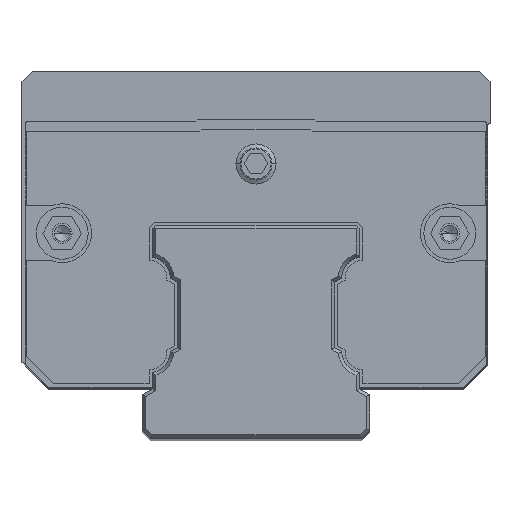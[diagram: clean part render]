
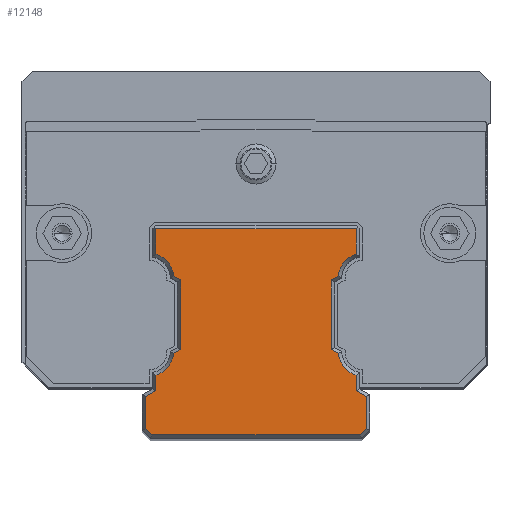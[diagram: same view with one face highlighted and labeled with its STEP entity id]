
A CAD part, top view. The second image highlights one B-rep face of the part: STEP entity #12148.
In plain terms, the highlighted planar face has unit normal (0, 0, 1).
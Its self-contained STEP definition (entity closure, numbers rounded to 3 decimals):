
#11462=DIRECTION('',(-1.,0.,0.));
#11463=VECTOR('',#11462,30.);
#11464=CARTESIAN_POINT('',(15.,12.85,104.5));
#11465=LINE('',#11464,#11463);
#11466=DIRECTION('',(0.,1.,0.));
#11467=VECTOR('',#11466,3.805);
#11468=CARTESIAN_POINT('',(15.,9.045,104.5));
#11469=LINE('',#11468,#11467);
#11470=DIRECTION('',(0.866,0.5,0.));
#11471=VECTOR('',#11470,1.239);
#11472=CARTESIAN_POINT('',(11.25,5.189,104.5));
#11473=LINE('',#11472,#11471);
#11474=DIRECTION('',(0.,1.,0.));
#11475=VECTOR('',#11474,10.377);
#11476=CARTESIAN_POINT('',(11.25,-5.189,104.5));
#11477=LINE('',#11476,#11475);
#11478=DIRECTION('',(-0.866,0.5,0.));
#11479=VECTOR('',#11478,1.239);
#11480=CARTESIAN_POINT('',(12.323,-5.808,
104.5));
#11481=LINE('',#11480,#11479);
#11482=DIRECTION('',(0.,1.,0.));
#11483=VECTOR('',#11482,2.344);
#11484=CARTESIAN_POINT('',(15.,-11.389,104.5));
#11485=LINE('',#11484,#11483);
#11486=DIRECTION('',(-0.866,0.5,0.));
#11487=VECTOR('',#11486,1.732);
#11488=CARTESIAN_POINT('',(16.5,-12.255,104.5));
#11489=LINE('',#11488,#11487);
#11490=DIRECTION('',(0.,1.,0.));
#11491=VECTOR('',#11490,4.838);
#11492=CARTESIAN_POINT('',(16.5,-17.093,104.5));
#11493=LINE('',#11492,#11491);
#11494=DIRECTION('',(0.707,0.707,0.));
#11495=VECTOR('',#11494,1.283);
#11496=CARTESIAN_POINT('',(15.593,-18.,104.5));
#11497=LINE('',#11496,#11495);
#11498=DIRECTION('',(1.,0.,0.));
#11499=VECTOR('',#11498,31.186);
#11500=CARTESIAN_POINT('',(-15.593,-18.,104.5));
#11501=LINE('',#11500,#11499);
#11502=DIRECTION('',(0.707,-0.707,0.));
#11503=VECTOR('',#11502,1.283);
#11504=CARTESIAN_POINT('',(-16.5,-17.093,104.5));
#11505=LINE('',#11504,#11503);
#11506=DIRECTION('',(0.,-1.,0.));
#11507=VECTOR('',#11506,4.838);
#11508=CARTESIAN_POINT('',(-16.5,-12.255,104.5));
#11509=LINE('',#11508,#11507);
#11510=DIRECTION('',(-0.866,-0.5,0.));
#11511=VECTOR('',#11510,1.732);
#11512=CARTESIAN_POINT('',(-15.,-11.389,104.5));
#11513=LINE('',#11512,#11511);
#11514=DIRECTION('',(0.,-1.,0.));
#11515=VECTOR('',#11514,2.344);
#11516=CARTESIAN_POINT('',(-15.,-9.045,
104.5));
#11517=LINE('',#11516,#11515);
#11518=DIRECTION('',(-0.866,-0.5,0.));
#11519=VECTOR('',#11518,1.239);
#11520=CARTESIAN_POINT('',(-11.25,-5.189,104.5));
#11521=LINE('',#11520,#11519);
#11522=DIRECTION('',(0.,-1.,0.));
#11523=VECTOR('',#11522,10.377);
#11524=CARTESIAN_POINT('',(-11.25,5.189,104.5));
#11525=LINE('',#11524,#11523);
#11526=DIRECTION('',(0.866,-0.5,0.));
#11527=VECTOR('',#11526,1.239);
#11528=CARTESIAN_POINT('',(-12.323,5.808,
104.5));
#11529=LINE('',#11528,#11527);
#11530=DIRECTION('',(0.,-1.,0.));
#11531=VECTOR('',#11530,3.805);
#11532=CARTESIAN_POINT('',(-15.,12.85,104.5));
#11533=LINE('',#11532,#11531);
#11561=CARTESIAN_POINT('',(-16.046,5.454,104.5));
#11562=DIRECTION('',(0.,0.,-1.));
#11563=DIRECTION('',(0.28,0.96,0.));
#11564=AXIS2_PLACEMENT_3D('',#11561,#11562,#11563);
#11621=CARTESIAN_POINT('',(-16.046,-5.454,104.5));
#11622=DIRECTION('',(0.,0.,-1.));
#11623=DIRECTION('',(0.996,-0.095,0.));
#11624=AXIS2_PLACEMENT_3D('',#11621,#11622,#11623);
#11753=CARTESIAN_POINT('',(16.046,-5.454,104.5));
#11754=DIRECTION('',(0.,0.,-1.));
#11755=DIRECTION('',(-0.28,-0.96,0.));
#11756=AXIS2_PLACEMENT_3D('',#11753,#11754,#11755);
#11818=CARTESIAN_POINT('',(16.046,5.454,104.5));
#11819=DIRECTION('',(0.,0.,-1.));
#11820=DIRECTION('',(-0.996,0.095,0.));
#11821=AXIS2_PLACEMENT_3D('',#11818,#11819,#11820);
#11910=CARTESIAN_POINT('',(15.,12.85,104.5));
#11911=CARTESIAN_POINT('',(-15.,12.85,104.5));
#11912=VERTEX_POINT('',#11910);
#11913=VERTEX_POINT('',#11911);
#11918=CARTESIAN_POINT('',(15.,9.045,104.5));
#11919=VERTEX_POINT('',#11918);
#11924=CARTESIAN_POINT('',(11.25,5.189,104.5));
#11925=CARTESIAN_POINT('',(12.323,5.808,104.5));
#11926=VERTEX_POINT('',#11924);
#11927=VERTEX_POINT('',#11925);
#11930=CARTESIAN_POINT('',(11.25,-5.189,104.5));
#11931=VERTEX_POINT('',#11930);
#11932=CARTESIAN_POINT('',(12.323,-5.808,
104.5));
#11933=VERTEX_POINT('',#11932);
#11940=CARTESIAN_POINT('',(15.,-11.389,104.5));
#11941=CARTESIAN_POINT('',(15.,-9.045,
104.5));
#11942=VERTEX_POINT('',#11940);
#11943=VERTEX_POINT('',#11941);
#11946=CARTESIAN_POINT('',(16.5,-12.255,104.5));
#11947=VERTEX_POINT('',#11946);
#11950=CARTESIAN_POINT('',(16.5,-17.093,104.5));
#11951=VERTEX_POINT('',#11950);
#11954=CARTESIAN_POINT('',(15.593,-18.,104.5));
#11955=VERTEX_POINT('',#11954);
#11958=CARTESIAN_POINT('',(-15.593,-18.,104.5));
#11959=VERTEX_POINT('',#11958);
#11962=CARTESIAN_POINT('',(-16.5,-17.093,104.5));
#11963=VERTEX_POINT('',#11962);
#11966=CARTESIAN_POINT('',(-16.5,-12.255,104.5));
#11967=VERTEX_POINT('',#11966);
#11970=CARTESIAN_POINT('',(-15.,-11.389,104.5));
#11971=VERTEX_POINT('',#11970);
#11974=CARTESIAN_POINT('',(-15.,-9.045,
104.5));
#11975=VERTEX_POINT('',#11974);
#11980=CARTESIAN_POINT('',(-11.25,-5.189,104.5));
#11981=CARTESIAN_POINT('',(-12.323,-5.808,
104.5));
#11982=VERTEX_POINT('',#11980);
#11983=VERTEX_POINT('',#11981);
#11986=CARTESIAN_POINT('',(-11.25,5.189,104.5));
#11987=VERTEX_POINT('',#11986);
#11990=CARTESIAN_POINT('',(-12.323,5.808,
104.5));
#11991=VERTEX_POINT('',#11990);
#11994=CARTESIAN_POINT('',(-15.,9.045,
104.5));
#11995=VERTEX_POINT('',#11994);
#12099=CARTESIAN_POINT('',(0.,0.,104.5));
#12100=DIRECTION('',(0.,0.,1.));
#12101=DIRECTION('',(1.,0.,0.));
#12102=AXIS2_PLACEMENT_3D('',#12099,#12100,#12101);
#12103=PLANE('',#12102);
#12105=ORIENTED_EDGE('',*,*,#12104,.F.);
#12107=ORIENTED_EDGE('',*,*,#12106,.F.);
#12109=ORIENTED_EDGE('',*,*,#12108,.F.);
#12111=ORIENTED_EDGE('',*,*,#12110,.F.);
#12112=ORIENTED_EDGE('',*,*,#12077,.F.);
#12113=ORIENTED_EDGE('',*,*,#12089,.F.);
#12115=ORIENTED_EDGE('',*,*,#12114,.F.);
#12117=ORIENTED_EDGE('',*,*,#12116,.F.);
#12119=ORIENTED_EDGE('',*,*,#12118,.F.);
#12121=ORIENTED_EDGE('',*,*,#12120,.F.);
#12123=ORIENTED_EDGE('',*,*,#12122,.F.);
#12125=ORIENTED_EDGE('',*,*,#12124,.F.);
#12127=ORIENTED_EDGE('',*,*,#12126,.F.);
#12129=ORIENTED_EDGE('',*,*,#12128,.F.);
#12131=ORIENTED_EDGE('',*,*,#12130,.F.);
#12133=ORIENTED_EDGE('',*,*,#12132,.F.);
#12135=ORIENTED_EDGE('',*,*,#12134,.F.);
#12137=ORIENTED_EDGE('',*,*,#12136,.F.);
#12139=ORIENTED_EDGE('',*,*,#12138,.F.);
#12141=ORIENTED_EDGE('',*,*,#12140,.F.);
#12143=ORIENTED_EDGE('',*,*,#12142,.F.);
#12145=ORIENTED_EDGE('',*,*,#12144,.F.);
#12146=EDGE_LOOP('',(#12105,#12107,#12109,#12111,#12112,#12113,#12115,#12117,
#12119,#12121,#12123,#12125,#12127,#12129,#12131,#12133,#12135,#12137,#12139,
#12141,#12143,#12145));
#12147=FACE_OUTER_BOUND('',#12146,.F.);
#11565=CIRCLE('',#11564,3.74);
#11625=CIRCLE('',#11624,3.74);
#11757=CIRCLE('',#11756,3.74);
#11822=CIRCLE('',#11821,3.74);
#12077=EDGE_CURVE('',#11931,#11926,#11477,.T.);
#12089=EDGE_CURVE('',#11933,#11931,#11481,.T.);
#12104=EDGE_CURVE('',#11912,#11913,#11465,.T.);
#12106=EDGE_CURVE('',#11919,#11912,#11469,.T.);
#12108=EDGE_CURVE('',#11927,#11919,#11822,.T.);
#12110=EDGE_CURVE('',#11926,#11927,#11473,.T.);
#12114=EDGE_CURVE('',#11943,#11933,#11757,.T.);
#12116=EDGE_CURVE('',#11942,#11943,#11485,.T.);
#12118=EDGE_CURVE('',#11947,#11942,#11489,.T.);
#12120=EDGE_CURVE('',#11951,#11947,#11493,.T.);
#12122=EDGE_CURVE('',#11955,#11951,#11497,.T.);
#12124=EDGE_CURVE('',#11959,#11955,#11501,.T.);
#12126=EDGE_CURVE('',#11963,#11959,#11505,.T.);
#12128=EDGE_CURVE('',#11967,#11963,#11509,.T.);
#12130=EDGE_CURVE('',#11971,#11967,#11513,.T.);
#12132=EDGE_CURVE('',#11975,#11971,#11517,.T.);
#12134=EDGE_CURVE('',#11983,#11975,#11625,.T.);
#12136=EDGE_CURVE('',#11982,#11983,#11521,.T.);
#12138=EDGE_CURVE('',#11987,#11982,#11525,.T.);
#12140=EDGE_CURVE('',#11991,#11987,#11529,.T.);
#12142=EDGE_CURVE('',#11995,#11991,#11565,.T.);
#12144=EDGE_CURVE('',#11913,#11995,#11533,.T.);
#12148=ADVANCED_FACE('',(#12147),#12103,.T.);
